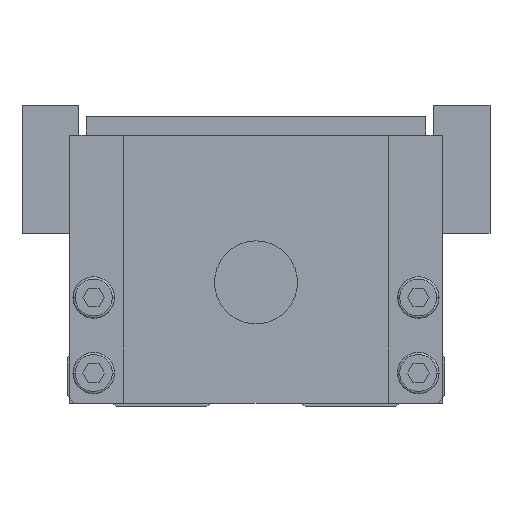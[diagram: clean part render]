
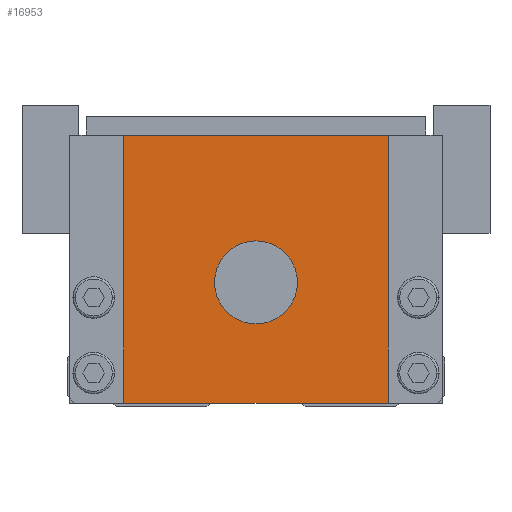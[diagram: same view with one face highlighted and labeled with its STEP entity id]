
A CAD part, front view. The second image highlights one B-rep face of the part: STEP entity #16953.
In plain terms, the highlighted planar face has unit normal (0, -1, 0).
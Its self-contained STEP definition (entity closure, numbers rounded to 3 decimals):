
#7559=EDGE_CURVE('',#8105,#9291,#19644,.T.);
#7909=VERTEX_POINT('',#20031);
#8105=VERTEX_POINT('',#20251);
#8337=VERTEX_POINT('',#20507);
#9291=VERTEX_POINT('',#21576);
#10015=EDGE_CURVE('',#8337,#7909,#22379,.T.);
#12141=EDGE_CURVE('',#14715,#16681,#24756,.T.);
#14089=EDGE_CURVE('',#9291,#14715,#26959,.T.);
#14715=VERTEX_POINT('',#27632);
#16681=VERTEX_POINT('',#29823);
#16867=EDGE_CURVE('',#8105,#16681,#30021,.T.);
#16953=ADVANCED_FACE('',(#30112,#30113),#30114,.F.);
#17007=EDGE_CURVE('',#7909,#8337,#30174,.T.);
#19644=LINE('',#33695,#33696);
#20031=CARTESIAN_POINT('',(-5.5,0.0,16.5));
#20251=CARTESIAN_POINT('',(-17.5,0.0,36.0));
#20507=CARTESIAN_POINT('',(5.5,0.0,16.5));
#21576=CARTESIAN_POINT('',(17.5,0.0,36.0));
#22379=CIRCLE('',#37678,5.5);
#24756=LINE('',#41074,#41075);
#26959=LINE('',#44075,#44076);
#27632=CARTESIAN_POINT('',(17.5,0.0,0.5));
#29823=CARTESIAN_POINT('',(-17.5,0.0,0.5));
#30021=LINE('',#48527,#48528);
#30112=FACE_BOUND('',#48704,.T.);
#30113=FACE_OUTER_BOUND('',#48705,.T.);
#30114=PLANE('',#48706);
#30174=CIRCLE('',#48784,5.5);
#33695=CARTESIAN_POINT('',(0.0,0.0,36.0));
#33696=VECTOR('',#52099,1.0);
#37678=AXIS2_PLACEMENT_3D('',#55255,#55256,#55257);
#41074=CARTESIAN_POINT('',(0.0,0.0,0.5));
#41075=VECTOR('',#58058,1.0);
#44075=CARTESIAN_POINT('',(17.5,0.0,18.25));
#44076=VECTOR('',#60821,1.0);
#48527=CARTESIAN_POINT('',(-17.5,0.0,18.25));
#48528=VECTOR('',#64166,1.0);
#48704=EDGE_LOOP('',(#64243,#64244));
#48705=EDGE_LOOP('',(#64245,#64246,#64247,#64248));
#48706=AXIS2_PLACEMENT_3D('',#64249,#64250,#64251);
#48784=AXIS2_PLACEMENT_3D('',#64325,#64326,#64327);
#52099=DIRECTION('',(1.0,0.0,0.0));
#55255=CARTESIAN_POINT('',(0.0,0.0,16.5));
#55256=DIRECTION('',(-0.0,1.0,0.0));
#55257=DIRECTION('',(1.0,0.0,0.0));
#58058=DIRECTION('',(-1.0,0.0,0.0));
#60821=DIRECTION('',(0.0,0.0,-1.0));
#64166=DIRECTION('',(0.0,0.0,-1.0));
#64243=ORIENTED_EDGE('',*,*,#10015,.T.);
#64244=ORIENTED_EDGE('',*,*,#17007,.T.);
#64245=ORIENTED_EDGE('',*,*,#16867,.T.);
#64246=ORIENTED_EDGE('',*,*,#12141,.F.);
#64247=ORIENTED_EDGE('',*,*,#14089,.F.);
#64248=ORIENTED_EDGE('',*,*,#7559,.F.);
#64249=CARTESIAN_POINT('',(0.0,0.0,18.25));
#64250=DIRECTION('',(0.0,1.0,0.0));
#64251=DIRECTION('',(0.0,0.0,1.0));
#64325=CARTESIAN_POINT('',(0.0,0.0,16.5));
#64326=DIRECTION('',(-0.0,1.0,0.0));
#64327=DIRECTION('',(1.0,0.0,0.0));
